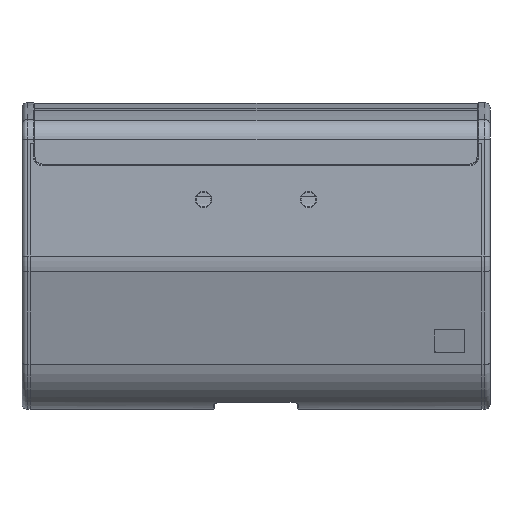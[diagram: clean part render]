
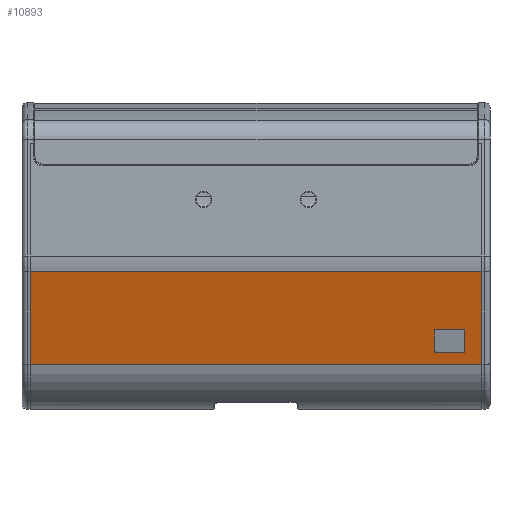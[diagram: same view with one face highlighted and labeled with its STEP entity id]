
A CAD part, left-side view. The second image highlights one B-rep face of the part: STEP entity #10893.
In plain terms, the highlighted planar face has unit normal (-0.966, 0, -0.259).
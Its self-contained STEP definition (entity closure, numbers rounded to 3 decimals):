
#303 = PLANE ( 'NONE',  #6670 ) ;
#304 = CARTESIAN_POINT ( 'NONE',  ( -213.968, 561.146, -324.411 ) ) ;
#305 = DIRECTION ( 'NONE',  ( -0.966, 0., -0.259 ) ) ;
#306 = DIRECTION ( 'NONE',  ( -0.259, 0., 0.966 ) ) ;
#1713 = LINE ( 'NONE', #5906, #1714 ) ;
#1714 = VECTOR ( 'NONE', #5907, 1000. ) ;
#1715 = LINE ( 'NONE', #5911, #1717 ) ;
#1716 = CIRCLE ( 'NONE', #7327, 2. ) ;
#1717 = VECTOR ( 'NONE', #5912, 1000. ) ;
#1718 = LINE ( 'NONE', #5916, #1720 ) ;
#1719 = CIRCLE ( 'NONE', #7328, 2. ) ;
#1720 = VECTOR ( 'NONE', #5917, 1000. ) ;
#1721 = LINE ( 'NONE', #5921, #1723 ) ;
#1722 = CIRCLE ( 'NONE', #7329, 2. ) ;
#1723 = VECTOR ( 'NONE', #5922, 1000. ) ;
#1724 = LINE ( 'NONE', #5926, #1726 ) ;
#1725 = CIRCLE ( 'NONE', #7330, 2. ) ;
#1726 = VECTOR ( 'NONE', #5927, 1000. ) ;
#1727 = LINE ( 'NONE', #5928, #1728 ) ;
#1728 = VECTOR ( 'NONE', #5929, 1000. ) ;
#1729 = LINE ( 'NONE', #5930, #1730 ) ;
#1730 = VECTOR ( 'NONE', #5931, 1000. ) ;
#3653 = CARTESIAN_POINT ( 'NONE',  ( -217.85, 24.396, -309.923 ) ) ;
#3655 = CARTESIAN_POINT ( 'NONE',  ( -218.368, 22.396, -307.991 ) ) ;
#3656 = CARTESIAN_POINT ( 'NONE',  ( -225.097, 22.396, -282.877 ) ) ;
#3657 = CARTESIAN_POINT ( 'NONE',  ( -225.615, 24.396, -280.945 ) ) ;
#3659 = CARTESIAN_POINT ( 'NONE',  ( -225.615, 57.896, -280.945 ) ) ;
#3661 = CARTESIAN_POINT ( 'NONE',  ( -225.097, 59.896, -282.877 ) ) ;
#3662 = CARTESIAN_POINT ( 'NONE',  ( -217.85, 57.896, -309.923 ) ) ;
#3664 = CARTESIAN_POINT ( 'NONE',  ( -218.368, 59.896, -307.991 ) ) ;
#3665 = CARTESIAN_POINT ( 'NONE',  ( -244.782, 1.146, -209.411 ) ) ;
#3667 = CARTESIAN_POINT ( 'NONE',  ( -244.782, 561.146, -209.411 ) ) ;
#4017 = CARTESIAN_POINT ( 'NONE',  ( -213.968, 561.146, -324.411 ) ) ;
#4096 = CARTESIAN_POINT ( 'NONE',  ( -213.968, 1.146, -324.411 ) ) ;
#5178 = CARTESIAN_POINT ( 'NONE',  ( -213.968, 1.146, -324.411 ) ) ;
#5179 = DIRECTION ( 'NONE',  ( 0., 1., 0. ) ) ;
#5906 = CARTESIAN_POINT ( 'NONE',  ( -244.782, 1.146, -209.411 ) ) ;
#5907 = DIRECTION ( 'NONE',  ( 0., 1., 0. ) ) ;
#5908 = CARTESIAN_POINT ( 'NONE',  ( -218.368, 57.896, -307.991 ) ) ;
#5909 = DIRECTION ( 'NONE',  ( -0.966, 0., -0.259 ) ) ;
#5910 = DIRECTION ( 'NONE',  ( -0.259, 0., 0.966 ) ) ;
#5911 = CARTESIAN_POINT ( 'NONE',  ( -218.368, 59.896, -307.991 ) ) ;
#5912 = DIRECTION ( 'NONE',  ( 0.259, 0., -0.966 ) ) ;
#5913 = CARTESIAN_POINT ( 'NONE',  ( -225.097, 57.896, -282.877 ) ) ;
#5914 = DIRECTION ( 'NONE',  ( -0.966, 0., -0.259 ) ) ;
#5915 = DIRECTION ( 'NONE',  ( 0.259, 0., -0.966 ) ) ;
#5916 = CARTESIAN_POINT ( 'NONE',  ( -225.615, 57.896, -280.945 ) ) ;
#5917 = DIRECTION ( 'NONE',  ( 0., 1., 0. ) ) ;
#5918 = CARTESIAN_POINT ( 'NONE',  ( -225.097, 24.396, -282.877 ) ) ;
#5919 = DIRECTION ( 'NONE',  ( -0.966, 0., -0.259 ) ) ;
#5920 = DIRECTION ( 'NONE',  ( -0.259, 0., 0.966 ) ) ;
#5921 = CARTESIAN_POINT ( 'NONE',  ( -218.368, 22.396, -307.991 ) ) ;
#5922 = DIRECTION ( 'NONE',  ( -0.259, 0., 0.966 ) ) ;
#5923 = CARTESIAN_POINT ( 'NONE',  ( -218.368, 24.396, -307.991 ) ) ;
#5924 = DIRECTION ( 'NONE',  ( -0.966, 0., -0.259 ) ) ;
#5925 = DIRECTION ( 'NONE',  ( -0.259, 0., 0.966 ) ) ;
#5926 = CARTESIAN_POINT ( 'NONE',  ( -217.85, 57.896, -309.923 ) ) ;
#5927 = DIRECTION ( 'NONE',  ( 0., -1., 0. ) ) ;
#5928 = CARTESIAN_POINT ( 'NONE',  ( -244.782, 1.146, -209.411 ) ) ;
#5929 = DIRECTION ( 'NONE',  ( 0.259, 0., -0.966 ) ) ;
#5930 = CARTESIAN_POINT ( 'NONE',  ( -244.782, 561.146, -209.411 ) ) ;
#5931 = DIRECTION ( 'NONE',  ( 0.259, 0., -0.966 ) ) ;
#6670 = AXIS2_PLACEMENT_3D ( 'NONE', #304, #305, #306 ) ;
#7327 = AXIS2_PLACEMENT_3D ( 'NONE', #5908, #5909, #5910 ) ;
#7328 = AXIS2_PLACEMENT_3D ( 'NONE', #5913, #5914, #5915 ) ;
#7329 = AXIS2_PLACEMENT_3D ( 'NONE', #5918, #5919, #5920 ) ;
#7330 = AXIS2_PLACEMENT_3D ( 'NONE', #5923, #5924, #5925 ) ;
#8438 = ORIENTED_EDGE ( 'NONE', *, *, #13251, .T. ) ;
#8439 = ORIENTED_EDGE ( 'NONE', *, *, #13241, .T. ) ;
#8440 = ORIENTED_EDGE ( 'NONE', *, *, #13250, .F. ) ;
#8441 = ORIENTED_EDGE ( 'NONE', *, *, #12943, .F. ) ;
#8442 = ORIENTED_EDGE ( 'NONE', *, *, #13249, .F. ) ;
#8443 = ORIENTED_EDGE ( 'NONE', *, *, #13248, .F. ) ;
#8444 = ORIENTED_EDGE ( 'NONE', *, *, #13247, .F. ) ;
#8445 = ORIENTED_EDGE ( 'NONE', *, *, #13246, .F. ) ;
#8446 = ORIENTED_EDGE ( 'NONE', *, *, #13245, .F. ) ;
#8447 = ORIENTED_EDGE ( 'NONE', *, *, #13244, .F. ) ;
#8448 = ORIENTED_EDGE ( 'NONE', *, *, #13243, .F. ) ;
#8449 = ORIENTED_EDGE ( 'NONE', *, *, #13242, .F. ) ;
#9787 = VERTEX_POINT ( 'NONE', #3653 ) ;
#9789 = VERTEX_POINT ( 'NONE', #3655 ) ;
#9790 = VERTEX_POINT ( 'NONE', #3656 ) ;
#9791 = VERTEX_POINT ( 'NONE', #3657 ) ;
#9793 = VERTEX_POINT ( 'NONE', #3659 ) ;
#9795 = VERTEX_POINT ( 'NONE', #3661 ) ;
#9796 = VERTEX_POINT ( 'NONE', #3662 ) ;
#9798 = VERTEX_POINT ( 'NONE', #3664 ) ;
#9799 = VERTEX_POINT ( 'NONE', #3665 ) ;
#9801 = VERTEX_POINT ( 'NONE', #3667 ) ;
#10151 = VERTEX_POINT ( 'NONE', #4017 ) ;
#10230 = VERTEX_POINT ( 'NONE', #4096 ) ;
#10893 = ADVANCED_FACE ( 'NONE', ( #12318, #12319 ), #303, .T. ) ;
#12318 = FACE_BOUND ( 'NONE', #15133, .T. ) ;
#12319 = FACE_OUTER_BOUND ( 'NONE', #15132, .T. ) ;
#12943 = EDGE_CURVE ( 'NONE', #10230, #10151, #14696, .T. ) ;
#13241 = EDGE_CURVE ( 'NONE', #9799, #9801, #1713, .T. ) ;
#13242 = EDGE_CURVE ( 'NONE', #9798, #9796, #1716, .T. ) ;
#13243 = EDGE_CURVE ( 'NONE', #9795, #9798, #1715, .T. ) ;
#13244 = EDGE_CURVE ( 'NONE', #9793, #9795, #1719, .T. ) ;
#13245 = EDGE_CURVE ( 'NONE', #9791, #9793, #1718, .T. ) ;
#13246 = EDGE_CURVE ( 'NONE', #9790, #9791, #1722, .T. ) ;
#13247 = EDGE_CURVE ( 'NONE', #9789, #9790, #1721, .T. ) ;
#13248 = EDGE_CURVE ( 'NONE', #9787, #9789, #1725, .T. ) ;
#13249 = EDGE_CURVE ( 'NONE', #9796, #9787, #1724, .T. ) ;
#13250 = EDGE_CURVE ( 'NONE', #9799, #10230, #1727, .T. ) ;
#13251 = EDGE_CURVE ( 'NONE', #9801, #10151, #1729, .T. ) ;
#14696 = LINE ( 'NONE', #5178, #14698 ) ;
#14698 = VECTOR ( 'NONE', #5179, 1000. ) ;
#15132 = EDGE_LOOP ( 'NONE', ( #8441, #8440, #8439, #8438 ) ) ;
#15133 = EDGE_LOOP ( 'NONE', ( #8449, #8448, #8447, #8446, #8445, #8444, #8443, #8442 ) ) ;
